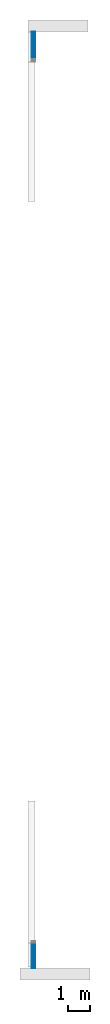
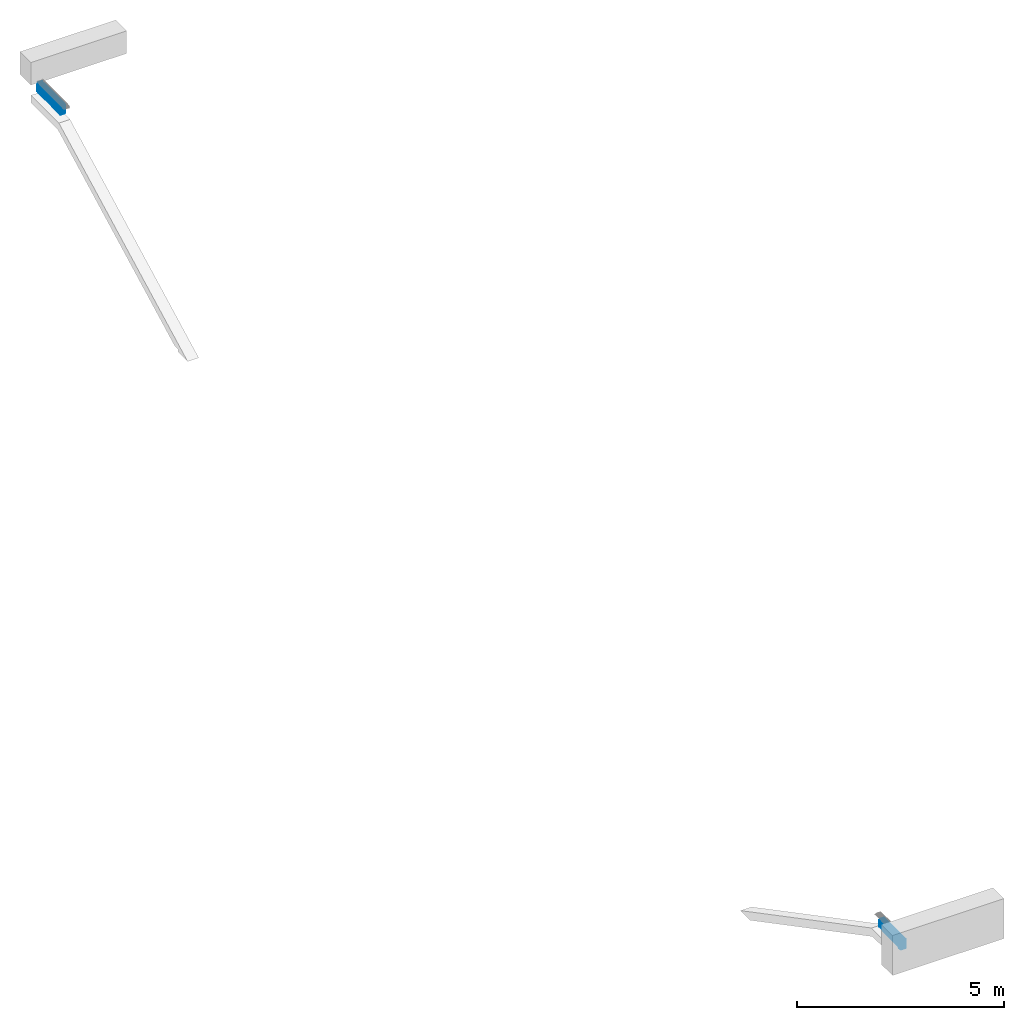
# One storey, part 2 of 3: 1 roof.
"""IFC2X3 building model written with IfcOpenShell, lengths in millimetres."""

from ifc_helpers import new_model, entity, si_unit, converted_unit, derived_unit, direction, frame, origin, place, context, subcontext, project, spatial, faceted_brep, material, layer, layer_set, element, save


model = new_model("IFC2X3")

# Units and contexts
model_context = context("Model", 3, precision=0.01, world=origin(), true_north=direction((6.123031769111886e-17, 1.0)))
body_context = subcontext(model_context, "Body", "Model", "MODEL_VIEW")
ifc_project = project(units=[si_unit("LENGTHUNIT", "METRE", prefix="MILLI"), si_unit("AREAUNIT", "SQUARE_METRE"), si_unit("VOLUMEUNIT", "CUBIC_METRE"), converted_unit("PLANEANGLEUNIT", "DEGREE", entity("IfcPlaneAngleMeasure", 0.017453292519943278), si_unit("PLANEANGLEUNIT", "RADIAN"), dimensions=[0, 0, 0, 0, 0, 0, 0]), si_unit("MASSUNIT", "GRAM", prefix="KILO"), derived_unit("MASSDENSITYUNIT", [(si_unit("MASSUNIT", "GRAM", prefix="KILO"), 1), (si_unit("LENGTHUNIT", "METRE"), -3)]), derived_unit("IONCONCENTRATIONUNIT", [(si_unit("MASSUNIT", "GRAM", prefix="KILO"), 1), (si_unit("LENGTHUNIT", "METRE"), -3)]), derived_unit("MOMENTOFINERTIAUNIT", [(si_unit("LENGTHUNIT", "METRE"), 4)]), si_unit("TIMEUNIT", "SECOND"), si_unit("FREQUENCYUNIT", "HERTZ"), si_unit("THERMODYNAMICTEMPERATUREUNIT", "DEGREE_CELSIUS"), derived_unit("THERMALTRANSMITTANCEUNIT", [(si_unit("MASSUNIT", "GRAM", prefix="KILO"), 1), (si_unit("THERMODYNAMICTEMPERATUREUNIT", "KELVIN"), -1), (si_unit("TIMEUNIT", "SECOND"), -3)]), derived_unit("THERMALCONDUCTANCEUNIT", [(si_unit("MASSUNIT", "GRAM", prefix="KILO"), 1), (si_unit("THERMODYNAMICTEMPERATUREUNIT", "KELVIN"), -1), (si_unit("TIMEUNIT", "SECOND"), -3), (si_unit("LENGTHUNIT", "METRE"), 1)]), derived_unit("VOLUMETRICFLOWRATEUNIT", [(si_unit("LENGTHUNIT", "METRE", prefix="DECI"), 3), (si_unit("TIMEUNIT", "SECOND"), -1)]), derived_unit("MASSFLOWRATEUNIT", [(si_unit("MASSUNIT", "GRAM", prefix="KILO"), 1), (si_unit("TIMEUNIT", "SECOND"), -1)]), derived_unit("ROTATIONALFREQUENCYUNIT", [(si_unit("TIMEUNIT", "SECOND"), -1)]), si_unit("ELECTRICCURRENTUNIT", "AMPERE"), si_unit("ELECTRICVOLTAGEUNIT", "VOLT"), si_unit("POWERUNIT", "WATT"), si_unit("FORCEUNIT", "NEWTON", prefix="KILO"), si_unit("ILLUMINANCEUNIT", "LUX"), si_unit("LUMINOUSFLUXUNIT", "LUMEN"), si_unit("LUMINOUSINTENSITYUNIT", "CANDELA"), si_unit("ENERGYUNIT", "JOULE"), derived_unit("USERDEFINED", [(si_unit("MASSUNIT", "GRAM", prefix="KILO"), -1), (si_unit("LENGTHUNIT", "METRE"), -2), (si_unit("TIMEUNIT", "SECOND"), 3), (si_unit("LUMINOUSFLUXUNIT", "LUMEN"), 1)]), derived_unit("USERDEFINED", [(si_unit("MASSUNIT", "GRAM", prefix="KILO"), 1), (si_unit("TIMEUNIT", "SECOND"), -3), (si_unit("LENGTHUNIT", "METRE"), 3), (si_unit("ELECTRICCURRENTUNIT", "AMPERE"), -2)]), derived_unit("SOUNDPOWERUNIT", [(si_unit("MASSUNIT", "GRAM", prefix="KILO"), 1), (si_unit("TIMEUNIT", "SECOND"), -3), (si_unit("LENGTHUNIT", "METRE"), 2)]), derived_unit("SOUNDPRESSUREUNIT", [(si_unit("MASSUNIT", "GRAM", prefix="KILO"), 1), (si_unit("LENGTHUNIT", "METRE"), -1), (si_unit("TIMEUNIT", "SECOND"), -2)]), derived_unit("LINEARVELOCITYUNIT", [(si_unit("LENGTHUNIT", "METRE"), 1), (si_unit("TIMEUNIT", "SECOND"), -1)]), si_unit("PRESSUREUNIT", "PASCAL"), derived_unit("USERDEFINED", [(si_unit("MASSUNIT", "GRAM", prefix="KILO"), 1), (si_unit("LENGTHUNIT", "METRE"), -2), (si_unit("TIMEUNIT", "SECOND"), -2)]), derived_unit("LINEARFORCEUNIT", [(si_unit("MASSUNIT", "GRAM", prefix="KILO"), 1), (si_unit("TIMEUNIT", "SECOND"), -2)]), derived_unit("PLANARFORCEUNIT", [(si_unit("MASSUNIT", "GRAM", prefix="KILO"), 1), (si_unit("LENGTHUNIT", "METRE"), -1), (si_unit("TIMEUNIT", "SECOND"), -2)]), derived_unit("SPECIFICHEATCAPACITYUNIT", [(si_unit("THERMODYNAMICTEMPERATUREUNIT", "KELVIN"), -1), (si_unit("LENGTHUNIT", "METRE"), 2), (si_unit("TIMEUNIT", "SECOND"), -2)]), derived_unit("HEATFLUXDENSITYUNIT", [(si_unit("MASSUNIT", "GRAM", prefix="KILO"), 1), (si_unit("TIMEUNIT", "SECOND"), -3)]), derived_unit("HEATINGVALUEUNIT", [(si_unit("LENGTHUNIT", "METRE"), 2), (si_unit("TIMEUNIT", "SECOND"), -2)]), derived_unit("VAPORPERMEABILITYUNIT", [(si_unit("LENGTHUNIT", "METRE"), -1), (si_unit("TIMEUNIT", "SECOND"), 1)]), derived_unit("DYNAMICVISCOSITYUNIT", [(si_unit("MASSUNIT", "GRAM", prefix="KILO"), 1), (si_unit("TIMEUNIT", "SECOND"), -1), (si_unit("LENGTHUNIT", "METRE"), -1)]), derived_unit("THERMALEXPANSIONCOEFFICIENTUNIT", [(si_unit("THERMODYNAMICTEMPERATUREUNIT", "KELVIN"), -1)]), derived_unit("MODULUSOFELASTICITYUNIT", [(si_unit("MASSUNIT", "GRAM", prefix="KILO"), 1), (si_unit("LENGTHUNIT", "METRE"), -1), (si_unit("TIMEUNIT", "SECOND"), -2)]), derived_unit("ISOTHERMALMOISTURECAPACITYUNIT", [(si_unit("MASSUNIT", "GRAM", prefix="KILO"), -1), (si_unit("LENGTHUNIT", "METRE"), 3)]), derived_unit("MOISTUREDIFFUSIVITYUNIT", [(si_unit("TIMEUNIT", "SECOND"), -1), (si_unit("LENGTHUNIT", "METRE"), 2)]), derived_unit("MASSPERLENGTHUNIT", [(si_unit("MASSUNIT", "GRAM", prefix="KILO"), 1), (si_unit("LENGTHUNIT", "METRE"), -1)]), derived_unit("THERMALRESISTANCEUNIT", [(si_unit("MASSUNIT", "GRAM", prefix="KILO"), -1), (si_unit("TIMEUNIT", "SECOND"), 3), (si_unit("THERMODYNAMICTEMPERATUREUNIT", "KELVIN"), 1)]), derived_unit("ACCELERATIONUNIT", [(si_unit("LENGTHUNIT", "METRE"), 1), (si_unit("TIMEUNIT", "SECOND"), -2)]), derived_unit("ANGULARVELOCITYUNIT", [(si_unit("TIMEUNIT", "SECOND"), -1), (si_unit("PLANEANGLEUNIT", "RADIAN"), 1)]), derived_unit("LINEARSTIFFNESSUNIT", [(si_unit("MASSUNIT", "GRAM", prefix="KILO"), 1), (si_unit("TIMEUNIT", "SECOND"), -2)]), derived_unit("WARPINGCONSTANTUNIT", [(si_unit("LENGTHUNIT", "METRE"), 6)]), derived_unit("LINEARMOMENTUNIT", [(si_unit("MASSUNIT", "GRAM", prefix="KILO"), 1), (si_unit("LENGTHUNIT", "METRE"), 1), (si_unit("TIMEUNIT", "SECOND"), -2)]), derived_unit("TORQUEUNIT", [(si_unit("MASSUNIT", "GRAM", prefix="KILO"), 1), (si_unit("LENGTHUNIT", "METRE"), 2), (si_unit("TIMEUNIT", "SECOND"), -2)])], contexts=[model_context])

# Site, building, storey
site_placement = place(None, origin())
site = spatial("IfcSite", under=ifc_project, at=site_placement, Name="Default", CompositionType="ELEMENT")
building_placement = place(site_placement, origin())
building = spatial("IfcBuilding", under=site, at=building_placement, Name="Eesti Rahvusraamatukogu hoone renoveerimise projekteerimistööd", CompositionType="ELEMENT")
storey_placement = place(building_placement, frame((0.0, 0.0, 14850.000000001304)))
storey = spatial("IfcBuildingStorey", under=building, at=storey_placement, Name="5. korrus", CompositionType="ELEMENT", Elevation=14850.000000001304)

# Roof
ifc_material_1 = material(Name="EST. Betoon. Kohtvalu")
ifc_layer_1 = layer(ifc_material_1, 50.0)
ifc_material_2 = material(Name="EST. Soojustus. EPS 100 kaldekiht, PIR Kingspan Therma TP10 100mm")
ifc_layer_2 = layer(ifc_material_2, 220.0)
ifc_layer_set = layer_set([ifc_layer_1, ifc_layer_2], Name="Basic Roof:KL-20 - käidav, betoonplaat")
roof_placement = place(storey_placement, frame((-31750.0, 6530.0, -80.0)))
element("IfcRoof", 1, at=roof_placement, inside=storey, material=ifc_layer_set, Name="Basic Roof:KL-20 - käidav, betoonplaat", ObjectType="Basic Roof:KL-20 - käidav, betoonplaat", ShapeType="NOTDEFINED", context=body_context, shape_type="Brep", body=[
    faceted_brep([(140.18156877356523, 0.0, 0.0), (0.0, 0.0, 0.0), (0.0, 60.0, 0.0), (140.18156877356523, 60.0, 0.0), (0.0, 0.0, 260.0), (0.0, 0.0, 270.0), (0.0, 1041.0000000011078, 270.0), (0.0, 1041.0000000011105, 27.50732343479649), (0.0, 60.0, 27.50732343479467), (140.18156877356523, 1041.0000000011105, 268.56957582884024), (140.18156877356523, 1041.0000000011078, 27.50732343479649), (140.18156877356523, 0.0, 260.0), (140.18156877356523, 0.0, 270.0), (140.18156877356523, 60.0, 27.50732343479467), (140.18156877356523, 1011.8203613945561, 267.017413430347), (140.18156877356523, 74.31611536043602, 267.017413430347)], [[[0, 1, 2, 3]], [[1, 4, 5, 6, 7, 8, 2]], [[7, 6, 9, 10]], [[1, 0, 11, 12, 5, 4]], [[3, 2, 8, 13]], [[13, 8, 7, 10]], [[9, 6, 14]], [[6, 5, 15, 14]], [[5, 12, 15]], [[0, 3, 13, 10, 9, 14, 15, 12, 11]]]),
    faceted_brep([(0.0, 40598.00000000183, 0.0), (0.0, 40598.00000000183, 270.0), (0.0, 41720.0, 270.0), (0.0, 41720.0, 0.0), (0.0, 41660.0, 0.0), (140.18156877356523, 40598.00000000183, 0.0), (140.18156877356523, 40598.00000000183, 270.0), (140.18156877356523, 41720.0, 267.46780688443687), (116.05885112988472, 41720.0, 267.46780688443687), (140.18156877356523, 41705.450569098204, 266.9414930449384), (140.18156877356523, 41720.0, 0.0), (140.18156877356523, 41720.0, 260.0), (140.18156877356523, 40634.97524544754, 266.9414930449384), (140.18156877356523, 41660.0, 0.0)], [[[0, 1, 2, 3, 4]], [[0, 5, 6, 1]], [[7, 8, 9]], [[10, 3, 2, 8, 7, 11]], [[1, 12, 9, 8, 2]], [[1, 6, 12]], [[5, 13, 10, 11, 7, 9, 12, 6]], [[5, 0, 4, 3, 10, 13]]]),
])

save(model, "model.ifc")
